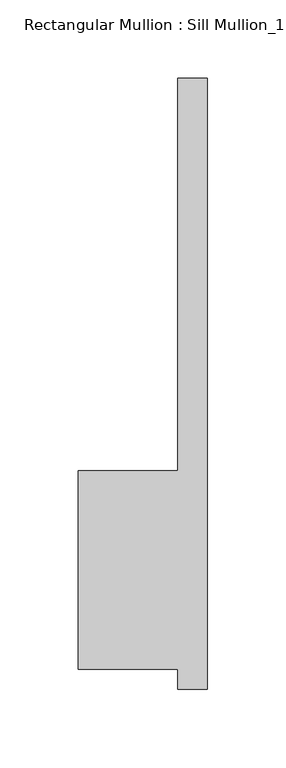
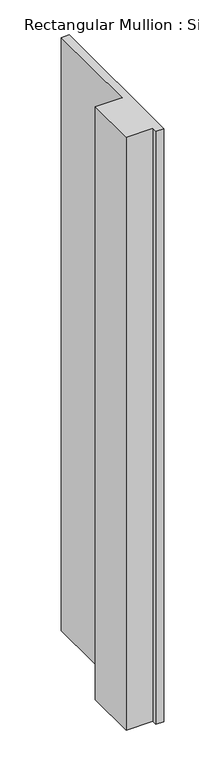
"""IFC4 building model written with IfcOpenShell, lengths in millimetres: member geometry."""

from ifc_helpers import new_model, si_unit, frame, origin, place, context, project, spatial, polyline, outline, extrude, source, transform, mapped, element, save


def member_800a61a5(model_context):
    return source(origin(), model_context, "Body", "SweptSolid", [
        extrude(outline(polyline([(-82.55, 50.8), (-19.05, 50.8), (-19.05, 301.625), (0.0, 301.625), (0.0, -88.9), (-19.05, -88.9), (-19.05, -76.2), (-82.55, -76.2), (-82.55, 50.8)])), frame((0.0, 0.0, -1498.6), z_axis=(0.0, 0.0, 1.0), x_axis=(1.0, 0.0, 0.0)), (0.0, 0.0, 1.0), 1498.6),
    ])


if __name__ == "__main__":
    model = new_model("IFC4")
    model_context = context("Model", 3, world=origin())
    ifc_project = project(units=[si_unit("LENGTHUNIT", "METRE", prefix="MILLI")], contexts=[model_context])
    site = spatial("IfcSite", under=ifc_project)
    building = spatial("IfcBuilding", under=site)
    placement = place(None, origin())
    member_shape = member_800a61a5(model_context)
    element("IfcMember", 1, ObjectType="Rectangular Mullion : Sill Mullion_15\" thick wall", at=placement, inside=building, context=model_context, shape_type="MappedRepresentation", body=[
        mapped(member_shape, transform((0.0, 0.0, 0.0), x_axis=(1.0, 0.0, 0.0), y_axis=(0.0, 1.0, 0.0), z_axis=(0.0, 0.0, 1.0))),
    ])
    save(model, "model.ifc")
